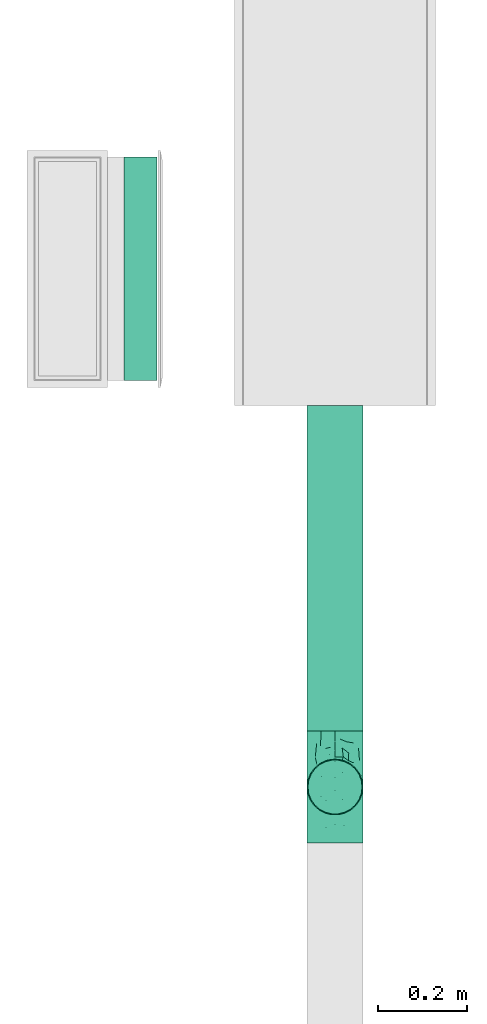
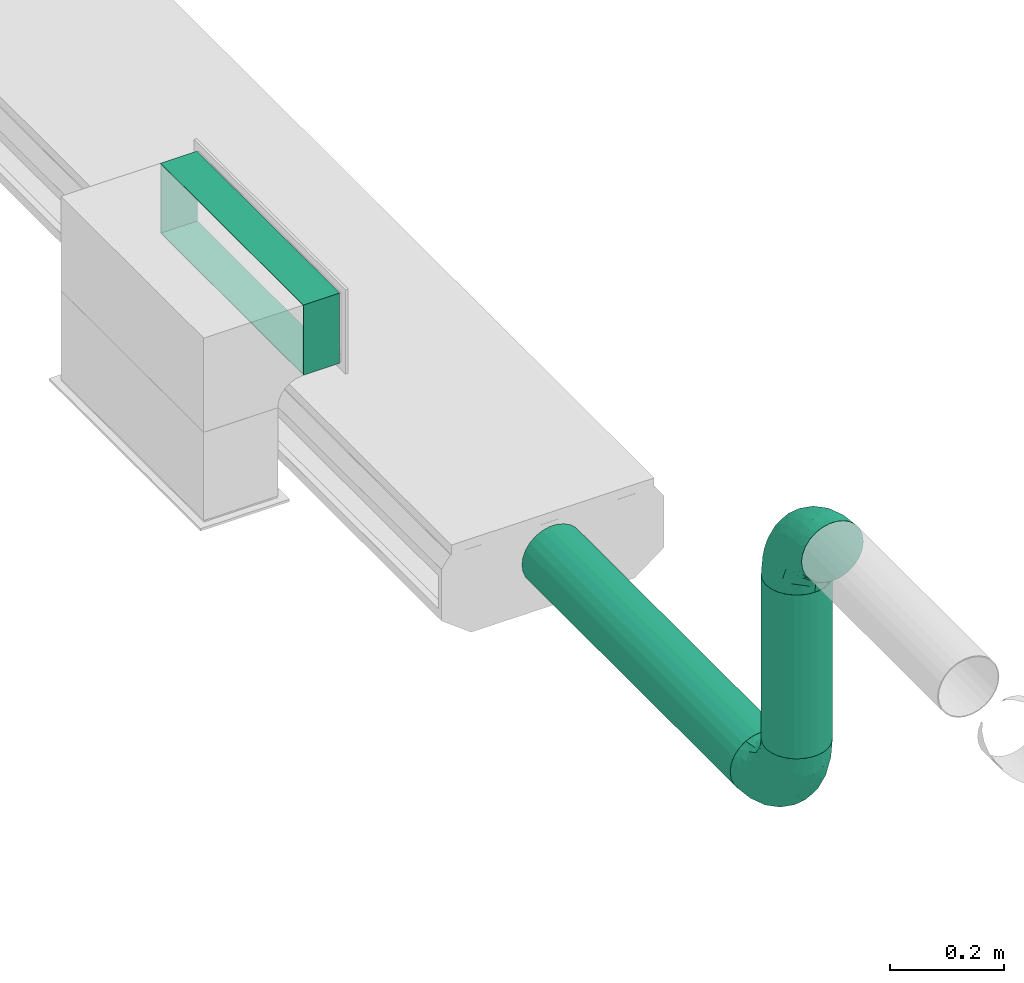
# One storey, part 29 of 36: 3 flow segments, 2 flow fittings.
"""IFC2X3 building model written with IfcOpenShell, lengths in millimetres."""

from ifc_helpers import new_model, entity, si_unit, converted_unit, derived_unit, direction, frame, origin_with_axes, origin_2d_with_axis, place, context, subcontext, project, spatial, hollow_rectangle, hollow_circle, extrude, open_shell, surface_model, source, transform, mapped, type_object, element, save


model = new_model("IFC2X3")

# Units and contexts
model_context = context("Model", 3, precision=0.01, world=frame((0.0, 4.29681676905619e-09, 0.0)), true_north=direction((4.01073788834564e-13, 1.0)))
plan_context = context("Plan", 3, precision=0.01, world=frame((0.0, 4.29681676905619e-09, 0.0)), true_north=direction((4.01073788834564e-13, 1.0)))
body_context = subcontext(model_context, "Body", "Model", "MODEL_VIEW")
ifc_project = project(units=[converted_unit("PLANEANGLEUNIT", "DEGREE", entity("IfcPositiveLengthMeasure", 0.0174532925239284), si_unit("PLANEANGLEUNIT", "RADIAN"), dimensions=[0, 0, 0, 0, 0, 0, 0]), si_unit("AREAUNIT", "SQUARE_METRE"), si_unit("LENGTHUNIT", "METRE", prefix="MILLI"), si_unit("MASSUNIT", "GRAM", prefix="KILO"), si_unit("POWERUNIT", "WATT"), si_unit("PRESSUREUNIT", "PASCAL"), si_unit("FORCEUNIT", "NEWTON", prefix="KILO"), si_unit("ELECTRICCURRENTUNIT", "AMPERE"), si_unit("THERMODYNAMICTEMPERATUREUNIT", "DEGREE_CELSIUS"), si_unit("TIMEUNIT", "SECOND"), si_unit("VOLUMEUNIT", "CUBIC_METRE"), derived_unit("LINEARVELOCITYUNIT", [(si_unit("LENGTHUNIT", "METRE"), 1), (si_unit("TIMEUNIT", "SECOND"), -1)]), derived_unit("VOLUMETRICFLOWRATEUNIT", [(si_unit("VOLUMEUNIT", "CUBIC_METRE"), 1), (si_unit("TIMEUNIT", "SECOND"), -1)]), derived_unit("THERMALTRANSMITTANCEUNIT", [(si_unit("POWERUNIT", "WATT"), 1), (si_unit("THERMODYNAMICTEMPERATUREUNIT", "KELVIN"), -1), (si_unit("AREAUNIT", "SQUARE_METRE"), -1)])], contexts=[model_context, plan_context])

# Site, building, storey
site_placement = place(None, frame((0.0, -4.29681676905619e-09, 0.0), z_axis=(0.0, 0.0, 1.0), x_axis=(1.0, 0.0, 0.0)))
site = spatial("IfcSite", under=ifc_project, at=site_placement, CompositionType="ELEMENT")
building_placement = place(site_placement, frame((0.0, 4.29681676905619e-09, 0.0), z_axis=(0.0, 0.0, 1.0), x_axis=(1.0, 0.0, 0.0)))
building = spatial("IfcBuilding", under=site, at=building_placement, Name="mc-building", CompositionType="ELEMENT")
storey_placement = place(building_placement, frame((0.0, 0.0, 204000.0), z_axis=(0.0, 0.0, 1.0), x_axis=(1.0, 0.0, 0.0)))
storey = spatial("IfcBuildingStorey", under=building, at=storey_placement, Name="Nivå D", CompositionType="ELEMENT", Elevation=204000.0)

# Flow fittings
duct_fitting_type = type_object("IfcDuctFittingType", Name="magicirc_elbow_full_radius_001", PredefinedType="BEND")
shared_shape_1 = source(origin_with_axes(), body_context, "Body", "SurfaceModel", [
    surface_model("IfcShellBasedSurfaceModel", [(-125.00008, 16.17619, -60.37037), (-125.00008, 0.0, -62.5), (-125.00008, 44.19417, -44.19417), (-125.00008, 31.25, -54.12659), (-125.00008, 60.37037, -16.17619), (-125.00008, 54.12659, -31.25), (-125.00008, -16.17619, -60.37037), (-125.00008, -31.25, -54.12659), (-125.00008, -44.19417, -44.19417), (-125.00008, -54.12659, -31.25), (-125.00008, -60.37037, -16.17619), (-125.00008, -62.5, 0.0), (-125.00008, 62.5, 0.0), (-125.00008, -31.25, 54.12659), (-125.00008, 60.37037, 16.17619), (-125.00008, 54.12659, 31.25), (-125.00008, 16.17619, 60.37037), (-125.00008, 31.25, 54.12659), (-125.00008, 44.19417, 44.19417), (-125.00008, -54.12659, 31.25), (-125.00008, -44.19417, 44.19417), (-125.00008, -60.37037, 16.17619), (-125.00008, -16.17619, 60.37037), (-125.00008, 0.0, 62.5), (-16.17627, 125.00007, -60.37037), (44.1941, 125.00011, -44.19417), (-8e-05, 125.00008, -62.5), (-44.19425, 125.00006, -44.19417), (-31.25008, 125.00006, -54.12659), (-54.12667, 125.00005, -31.25), (-60.37044, 125.00004, -16.17619), (16.17611, 125.00009, -60.37037), (31.24992, 125.0001, -54.12659), (60.37028, 125.00012, -16.17619), (54.12651, 125.00012, -31.25), (62.49992, 125.00012, 0.0), (-60.37044, 125.00004, 16.17619), (-16.17627, 125.00007, 60.37037), (-44.19425, 125.00006, 44.19417), (-54.12667, 125.00005, 31.25), (-31.25008, 125.00006, 54.12659), (-8e-05, 125.00008, 62.5), (60.37028, 125.00012, 16.17619), (44.1941, 125.00011, 44.19417), (54.12651, 125.00012, 31.25), (31.24992, 125.0001, 54.12659), (16.17611, 125.00009, 60.37037), (-62.50008, 125.00004, 0.0), (-92.01499, -48.59662, 35.11543), (-82.31108, -36.10079, 46.59002), (-83.27738, -57.79898, 0.0), (21.59337, 8.09572, 0.0), (6.68949, -6.68949, 12.50062), (-8.0957, -21.59337, 0.0), (-85.18294, -54.95352, 19.72452), (-63.86869, 108.10794, 10.69753), (-72.65271, 88.16477, 13.64848), (-58.8594, 108.47701, 26.01877), (28.68801, 50.93019, 42.73586), (15.2499, 48.30382, 51.88115), (13.33609, 22.15572, 40.76355), (-28.58039, -33.18172, 16.61251), (-55.80936, -40.00167, 31.60253), (-55.92907, -46.21073, 18.75922), (-43.64685, -43.93165, 0.0), (-11.16432, 11.16432, 51.09904), (-91.91548, -23.64007, 56.2333), (-48.30381, -15.24993, 51.88115), (-62.22465, -0.56087, 60.57833), (-86.05227, 71.09174, 22.01564), (-76.29763, 73.71529, 30.99182), (-95.48006, -8.27954, 61.43109), (-21.7217, 61.46247, 62.38786), (-46.2947, 46.29467, 60.98138), (-37.21572, 27.312, 62.17805), (-96.34428, 24.51221, 59.0402), (-23.33019, 107.80842, 58.54242), (-8.56594, 93.49125, 62.34649), (-87.52036, 9.58041, 62.39347), (-90.84336, 62.14568, 32.36992), (-104.65638, 61.64741, 22.10299), (-108.6762, 63.76169, 10.43133), (-88.81048, 72.98576, 10.36438), (36.10074, 82.31111, 46.59002), (-22.15571, -13.3361, 40.76355), (-97.70221, 52.10141, 41.01675), (33.1817, 28.58041, 16.61251), (43.93162, 43.64688, 0.0), (-108.1333, 37.84893, 50.9265), (-16.31429, 41.86092, 61.36861), (-31.05503, 11.46575, 58.3624), (-6.385, 33.76706, 57.43674), (23.64002, 91.9155, 56.2333), (8.27948, 95.48006, 61.43109), (40.00164, 55.80938, 31.60253), (47.31254, 55.33616, 14.21496), (57.79892, 83.27743, 0.0), (54.95347, 85.18296, 19.72452), (48.59656, 92.01501, 35.11543), (-51.08399, 80.06206, 49.23756), (-51.34971, 100.68879, 40.68918), (-65.8815, 69.79933, 44.27158), (-67.2576, 101.08231, 0.0), (-66.75096, 56.08362, 51.93913), (-47.27429, 67.56378, 55.69769), (-80.8059, 80.80584, 0.0), (-101.08236, 67.25753, 0.0), (-27.03015, 84.68907, 59.52251), (-39.49555, 96.79791, 51.80473), (-4.68937, 4.68937, 43.22246), (2.91364, -2.91364, 27.95972), (-68.67974, 26.77169, 61.38152), (-61.329, 15.31518, 62.47333), (-66.44481, 42.4079, 57.80884), (-86.0654, 42.42608, 52.63145), (-36.40735, 64.87814, 59.87196), (0.56083, 62.22465, 60.57833), (-50.92898, -28.66756, 42.75499), (-64.50933, 88.50412, 30.85553), (-27.43127, -26.16339, 29.83955), (22.73421, 21.43216, 28.89236), (-90.73917, 40.97988, -52.27133), (-51.05948, -15.77312, -52.43613), (-54.27153, -0.77961, -59.44482), (-25.11171, -1.04584, -51.21225), (-98.94236, 7.90272, -62.29658), (-67.16149, 94.52641, -18.73918), (-96.17127, 24.53976, -59.04752), (-57.88416, 72.64105, -48.12601), (-44.50921, 76.42377, -54.27754), (-57.76287, 57.76282, -54.87721), (-107.28054, 64.03146, -11.08737), (-59.60369, -46.85881, -20.95959), (-91.17803, -55.95169, -20.37553), (-87.70535, 72.36168, -15.72738), (37.33982, 90.42129, -47.18844), (21.56935, 79.15017, -55.58604), (24.63933, 105.55623, -56.88213), (-98.81841, 51.80612, -40.89409), (-75.37661, 57.27462, -47.13743), (-29.5623, -32.616, -19.86672), (2.6311, 29.3589, -52.12213), (-22.06404, 22.06403, -59.01679), (-105.22473, -49.75349, -36.31269), (-39.22859, 98.11976, -51.7028), (-25.51308, 90.93132, -59.26694), (7.0632, 14.54732, -41.00964), (25.49528, 46.66585, -43.72165), (20.9994, 20.90791, -30.93536), (-90.42127, -37.33987, -47.18844), (-47.4047, -35.90659, -32.07933), (-105.55621, -24.6394, -56.88213), (0.77958, 54.27153, -59.44482), (12.91752, 53.35703, -54.59988), (7.88042, 92.08259, -61.35725), (-79.15015, -21.5694, -55.58604), (-92.08258, -7.88048, -61.35725), (-78.52971, -46.34868, -33.8522), (-68.20961, -28.53783, -49.07388), (46.34863, 78.52974, -33.8522), (46.85877, 59.60372, -20.95959), (35.90656, 47.40472, -32.07933), (-75.95085, 74.3101, -30.65773), (-100.92726, 60.72326, -27.00798), (2.91554, -2.91554, -27.95435), (6.68997, -6.68997, -12.49729), (32.61598, 29.56232, -19.86672), (-54.06792, 91.48682, -41.70622), (-58.74828, 101.55882, -30.19257), (-7.90279, 98.94235, -62.29658), (49.75343, 105.22475, -36.31269), (-14.77489, 68.85353, -62.48651), (-33.79554, 36.46999, -62.46452), (-36.98166, 59.25003, -60.63975), (55.95163, 91.17806, -20.37553), (-61.70772, 36.16981, -60.43635), (-23.35088, -23.1825, -30.24251), (-68.85354, 14.77484, -62.48651), (-16.6083, -10.64431, -39.25755), (-46.66583, -25.49531, -43.72165), (-69.70069, 70.7847, -40.55271)], [open_shell([[[0, 1, 2]], [[3, 0, 2]], [[4, 5, 2]], [[6, 2, 1]], [[4, 2, 6]], [[7, 8, 6]], [[8, 4, 6]], [[9, 10, 8]], [[11, 8, 10]], [[8, 11, 4]], [[11, 12, 4]], [[12, 13, 14]], [[15, 14, 16]], [[16, 17, 18]], [[15, 16, 18]], [[16, 14, 13]], [[19, 20, 21]], [[21, 20, 11]], [[22, 23, 13]], [[20, 13, 11]], [[13, 23, 16]], [[13, 12, 11]], [[24, 25, 26]], [[27, 24, 28]], [[27, 29, 30]], [[27, 30, 24]], [[25, 24, 30]], [[31, 25, 32]], [[31, 26, 25]], [[25, 33, 34]], [[33, 25, 35]], [[25, 36, 35]], [[25, 30, 36]], [[35, 36, 37]], [[38, 36, 39]], [[40, 37, 36]], [[40, 36, 38]], [[35, 37, 41]], [[42, 43, 44]], [[43, 42, 45]], [[45, 41, 46]], [[41, 45, 42]], [[35, 41, 42]], [[30, 47, 36]], [[20, 48, 49]], [[21, 11, 50]], [[51, 52, 53]], [[54, 19, 21]], [[50, 54, 21]], [[55, 56, 57]], [[19, 48, 20]], [[58, 59, 60]], [[61, 62, 63]], [[61, 63, 64]], [[20, 49, 13]], [[61, 64, 53]], [[65, 60, 59]], [[66, 67, 68]], [[56, 69, 70]], [[71, 23, 22]], [[72, 73, 74]], [[17, 16, 75]], [[66, 13, 49]], [[37, 76, 77]], [[23, 78, 16]], [[15, 79, 80]], [[81, 12, 14]], [[69, 82, 81]], [[83, 43, 45]], [[65, 67, 84]], [[18, 85, 15]], [[86, 51, 87]], [[18, 17, 88]], [[89, 90, 91]], [[83, 45, 92]], [[69, 81, 80]], [[93, 46, 41]], [[94, 86, 95]], [[96, 97, 95]], [[96, 42, 97]], [[98, 97, 44]], [[41, 37, 77]], [[63, 50, 64]], [[42, 44, 97]], [[83, 94, 98]], [[44, 43, 98]], [[99, 100, 101]], [[55, 102, 56]], [[36, 57, 39]], [[42, 96, 35]], [[48, 54, 62]], [[79, 70, 69]], [[99, 103, 104]], [[47, 102, 55]], [[23, 71, 78]], [[56, 105, 82]], [[18, 88, 85]], [[102, 105, 56]], [[92, 45, 46]], [[57, 100, 39]], [[82, 105, 106]], [[107, 108, 104]], [[109, 110, 60]], [[107, 72, 77]], [[13, 66, 22]], [[108, 107, 76]], [[76, 37, 40]], [[40, 38, 108]], [[83, 92, 59]], [[95, 86, 87]], [[111, 112, 74]], [[75, 16, 78]], [[113, 75, 111]], [[103, 85, 114]], [[80, 79, 69]], [[100, 38, 39]], [[107, 104, 115]], [[107, 115, 72]], [[93, 77, 116]], [[67, 66, 49]], [[71, 66, 68]], [[67, 117, 84]], [[67, 65, 90]], [[93, 92, 46]], [[116, 91, 59]], [[116, 59, 92]], [[109, 60, 65]], [[54, 48, 19]], [[49, 48, 62]], [[83, 98, 43]], [[97, 98, 94]], [[111, 75, 78]], [[88, 75, 114]], [[81, 82, 106]], [[56, 82, 69]], [[12, 81, 106]], [[81, 14, 80]], [[14, 15, 80]], [[79, 15, 85]], [[85, 101, 79]], [[70, 101, 118]], [[108, 99, 104]], [[113, 103, 114]], [[111, 74, 73]], [[116, 77, 72]], [[90, 74, 68]], [[72, 74, 89]], [[77, 93, 41]], [[92, 93, 116]], [[66, 71, 22]], [[78, 71, 68]], [[101, 100, 118]], [[108, 38, 100]], [[52, 61, 53]], [[119, 110, 84]], [[94, 58, 120]], [[86, 120, 52]], [[117, 67, 49]], [[61, 119, 62]], [[120, 60, 110]], [[83, 58, 94]], [[111, 78, 112]], [[113, 111, 73]], [[104, 113, 73]], [[75, 113, 114]], [[104, 103, 113]], [[85, 103, 101]], [[78, 68, 112]], [[68, 74, 112]], [[101, 70, 79]], [[56, 70, 118]], [[67, 90, 68]], [[91, 90, 65]], [[59, 91, 65]], [[89, 91, 116]], [[72, 89, 116]], [[90, 89, 74]], [[57, 56, 118]], [[47, 55, 36]], [[86, 52, 51]], [[61, 52, 110]], [[75, 88, 17]], [[85, 88, 114]], [[108, 76, 40]], [[77, 76, 107]], [[55, 57, 36]], [[100, 57, 118]], [[104, 73, 115]], [[72, 115, 73]], [[100, 99, 108]], [[103, 99, 101]], [[62, 54, 63]], [[63, 54, 50]], [[96, 95, 87]], [[94, 95, 97]], [[49, 62, 117]], [[119, 117, 62]], [[110, 119, 61]], [[117, 119, 84]], [[65, 84, 109]], [[110, 109, 84]], [[52, 120, 110]], [[94, 120, 86]], [[59, 58, 83]], [[120, 58, 60]], [[2, 121, 3]], [[122, 123, 124]], [[1, 0, 125]], [[126, 102, 47]], [[3, 127, 0]], [[128, 129, 130]], [[106, 131, 12]], [[132, 50, 133]], [[106, 134, 131]], [[135, 136, 137]], [[138, 139, 121]], [[64, 140, 53]], [[141, 124, 142]], [[121, 2, 138]], [[133, 9, 143]], [[144, 28, 145]], [[50, 11, 10]], [[146, 147, 148]], [[149, 8, 7]], [[140, 132, 150]], [[151, 149, 7]], [[141, 152, 153]], [[31, 154, 26]], [[133, 10, 9]], [[143, 9, 8]], [[155, 156, 123]], [[157, 149, 158]], [[7, 6, 151]], [[156, 6, 1]], [[159, 160, 161]], [[105, 134, 106]], [[64, 50, 132]], [[126, 162, 134]], [[138, 163, 162]], [[30, 126, 47]], [[140, 164, 165]], [[166, 87, 51]], [[167, 168, 29]], [[162, 126, 168]], [[32, 25, 135]], [[154, 31, 137]], [[24, 169, 145]], [[127, 3, 121]], [[169, 24, 26]], [[25, 34, 170]], [[28, 144, 27]], [[24, 145, 28]], [[31, 32, 137]], [[87, 166, 160]], [[165, 166, 51]], [[171, 172, 173]], [[142, 152, 141]], [[165, 51, 53]], [[156, 155, 151]], [[136, 135, 147]], [[34, 33, 174]], [[35, 96, 33]], [[175, 127, 121]], [[2, 5, 138]], [[174, 159, 170]], [[176, 140, 150]], [[171, 154, 152]], [[126, 105, 102]], [[29, 27, 167]], [[173, 145, 171]], [[131, 163, 4]], [[128, 144, 129]], [[139, 128, 130]], [[174, 160, 159]], [[170, 135, 25]], [[147, 135, 159]], [[152, 154, 136]], [[169, 154, 171]], [[153, 147, 141]], [[152, 142, 172]], [[33, 96, 174]], [[160, 96, 87]], [[155, 122, 158]], [[143, 149, 157]], [[125, 156, 1]], [[177, 172, 123]], [[177, 123, 156]], [[123, 142, 124]], [[133, 157, 132]], [[50, 10, 133]], [[126, 134, 105]], [[168, 30, 29]], [[163, 5, 4]], [[121, 139, 130]], [[175, 121, 130]], [[125, 127, 177]], [[145, 173, 129]], [[167, 27, 144]], [[147, 146, 141]], [[178, 124, 146]], [[124, 141, 146]], [[124, 179, 122]], [[162, 163, 134]], [[138, 5, 163]], [[127, 125, 0]], [[156, 125, 177]], [[154, 169, 26]], [[145, 169, 171]], [[147, 161, 148]], [[146, 164, 178]], [[176, 164, 140]], [[124, 178, 179]], [[171, 152, 172]], [[175, 130, 173]], [[123, 172, 142]], [[175, 172, 177]], [[172, 175, 173]], [[127, 175, 177]], [[162, 180, 138]], [[180, 167, 128]], [[160, 174, 96]], [[161, 160, 166]], [[161, 166, 148]], [[147, 159, 161]], [[166, 164, 148]], [[164, 146, 148]], [[150, 132, 157]], [[64, 132, 140]], [[157, 179, 150]], [[176, 179, 178]], [[180, 128, 139]], [[144, 128, 167]], [[145, 129, 144]], [[173, 130, 129]], [[138, 180, 139]], [[167, 180, 162]], [[179, 176, 150]], [[164, 176, 178]], [[140, 165, 53]], [[166, 165, 164]], [[163, 131, 134]], [[12, 131, 4]], [[135, 137, 32]], [[154, 137, 136]], [[174, 170, 34]], [[135, 170, 159]], [[156, 151, 6]], [[149, 151, 155]], [[149, 143, 8]], [[133, 143, 157]], [[162, 168, 167]], [[30, 168, 126]], [[152, 136, 153]], [[147, 153, 136]], [[158, 122, 179]], [[123, 122, 155]], [[157, 158, 179]], [[155, 158, 149]]])]),
])
flow_fitting_1_placement = place(storey_placement, frame((529045.00387, 417759.63634, 2599.99994000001), z_axis=(-1.0, 0.0, 0.0), x_axis=(0.0, -1.0, 0.0)))
element("IfcFlowFitting", 1, at=flow_fitting_1_placement, inside=storey, type_object=duct_fitting_type, Name="magicirc_elbow_full_radius_001", context=body_context, shape_type="MappedRepresentation", body=[
    mapped(shared_shape_1, transform((0.0, 0.0, 0.0), scale=1.0)),
])
shared_shape_2 = source(origin_with_axes(), body_context, "Body", "SurfaceModel", [
    surface_model("IfcShellBasedSurfaceModel", [(-125.0, 31.25, -54.12659), (-125.0, 16.17619, -60.37037), (-125.0, 44.19417, -44.19417), (-125.0, 60.37037, -16.17619), (-125.0, 54.12659, -31.25), (-125.0, -31.25, -54.12659), (-125.0, -44.19417, -44.19417), (-125.0, -16.17619, -60.37037), (-125.0, -54.12659, -31.25), (-125.0, -60.37037, -16.17619), (-125.0, -62.5, 0.0), (-125.0, -54.12659, 31.25), (-125.0, -44.19417, 44.19417), (-125.0, -60.37037, 16.17619), (-125.0, -16.17619, 60.37037), (-125.0, 0.0, 62.5), (-125.0, -31.25, 54.12659), (-125.0, 16.17619, 60.37037), (-44.19417, 125.0, -44.19417), (-16.17619, 125.0, -60.37037), (-31.25, 125.0, -54.12659), (-54.12659, 125.0, -31.25), (-60.37037, 125.0, -16.17619), (16.17619, 125.0, -60.37037), (44.19417, 125.0, -44.19417), (31.25, 125.0, -54.12659), (60.37037, 125.0, -16.17619), (54.12659, 125.0, -31.25), (62.5, 125.0, 0.0), (-44.19417, 125.0, 44.19417), (-31.25, 125.0, 54.12659), (-16.17619, 125.0, 60.37037), (60.37037, 125.0, 16.17619), (44.19417, 125.0, 44.19417), (54.12659, 125.0, 31.25), (31.25, 125.0, 54.12659), (0.0, 125.0, 62.5), (16.17619, 125.0, 60.37037), (-92.0149, -48.59662, 35.11543), (-82.31101, -36.10079, 46.59002), (-83.27732, -57.79898, 0.0), (21.5934, 8.09566, 0.0), (6.68953, -6.68953, 12.50062), (-8.09566, -21.5934, 0.0), (-85.18285, -54.95352, 19.72452), (-63.86862, 108.10791, 10.69753), (-72.65264, 88.16475, 13.64847), (-58.85933, 108.47697, 26.01876), (28.68805, 50.93011, 42.73586), (15.24994, 48.30376, 51.88115), (13.33611, 22.15566, 40.76355), (-28.58034, -33.18174, 16.61251), (-55.80927, -40.00167, 31.60254), (-55.92901, -46.21073, 18.75923), (-43.6468, -43.93166, 0.0), (-11.16429, 11.16428, 51.09905), (-91.91541, -23.64007, 56.2333), (-48.30376, -15.24994, 51.88115), (-62.2246, -0.56088, 60.57833), (-86.05221, 71.09173, 22.01563), (-76.29757, 73.71528, 30.99181), (-95.48, -8.27954, 61.43109), (-21.72166, 61.46244, 62.38786), (-46.29465, 46.29465, 60.98138), (-37.21568, 27.31198, 62.17805), (-125.0, 31.25, 54.12659), (-96.3442, 24.51222, 59.0402), (-23.33012, 107.80836, 58.54242), (-8.56588, 93.49118, 62.34649), (-87.52028, 9.58041, 62.39347), (-125.0, 54.12659, 31.25), (-90.8433, 62.14568, 32.36992), (-104.65631, 61.64741, 22.10298), (-108.67612, 63.76169, 10.43133), (-125.0, 62.5, 0.0), (-125.0, 60.37037, 16.17619), (-88.81041, 72.98575, 10.36437), (36.10079, 82.31101, 46.59002), (-22.15566, -13.33612, 40.76355), (-125.0, 44.19417, 44.19417), (-97.70214, 52.10141, 41.01675), (33.18174, 28.58034, 16.61251), (43.93166, 43.6468, 0.0), (-108.13323, 37.84893, 50.9265), (-16.31425, 41.86087, 61.36861), (-31.05498, 11.46575, 58.36241), (-6.38494, 33.76703, 57.43674), (23.64007, 91.91541, 56.2333), (8.27954, 95.48, 61.43109), (40.00167, 55.80927, 31.60254), (47.31258, 55.33607, 14.21495), (57.79898, 83.27732, 0.0), (54.95352, 85.18285, 19.72452), (48.59662, 92.0149, 35.11543), (-51.08394, 80.06201, 49.23756), (-51.34965, 100.68876, 40.68918), (-65.88145, 69.79931, 44.27158), (-67.25753, 101.08228, 0.0), (-60.37037, 125.0, 16.17619), (-54.12659, 125.0, 31.25), (-66.7509, 56.0836, 51.93913), (-47.27423, 67.56375, 55.69769), (-62.5, 125.0, 0.0), (-80.80582, 80.80582, 0.0), (-101.08228, 67.25753, 0.0), (-27.0301, 84.68903, 59.52251), (-39.49549, 96.79785, 51.80473), (-4.68934, 4.68934, 43.22247), (2.91368, -2.91368, 27.95973), (-68.67967, 26.77168, 61.38152), (-61.32894, 15.31518, 62.47333), (-66.44476, 42.40788, 57.80884), (-86.06534, 42.42608, 52.63144), (-36.4073, 64.87811, 59.87196), (0.56088, 62.2246, 60.57833), (-50.92891, -28.66756, 42.755), (-64.50927, 88.5041, 30.85553), (-27.43118, -26.16339, 29.83954), (22.73426, 21.43212, 28.89237), (-90.73911, 40.97988, -52.27133), (-51.05944, -15.77315, -52.43613), (-54.27147, -0.77962, -59.44482), (-25.11169, -1.04586, -51.21226), (-125.0, 0.0, -62.5), (-98.94229, 7.90272, -62.29658), (-67.16143, 94.52638, -18.73917), (-96.1712, 24.53976, -59.04752), (-57.8841, 72.64103, -48.12601), (-44.50916, 76.42373, -54.27754), (-57.76281, 57.76281, -54.8772), (-107.28047, 64.03146, -11.08737), (-59.60363, -46.85882, -20.9596), (-91.17795, -55.95169, -20.37554), (-87.70528, 72.36167, -15.72738), (37.33987, 90.42119, -47.18844), (21.5694, 79.15007, -55.58604), (24.6394, 105.55614, -56.88213), (-98.81833, 51.80612, -40.89409), (-75.37655, 57.2746, -47.13743), (-29.56225, -32.61603, -19.86672), (2.63114, 29.35884, -52.12213), (-22.06401, 22.064, -59.01679), (-105.22465, -49.75349, -36.31269), (-39.22852, 98.11971, -51.7028), (-25.51302, 90.93127, -59.26694), (7.06321, 14.54725, -41.00964), (25.49531, 46.66577, -43.72165), (20.99941, 20.9078, -30.93535), (-90.42119, -37.33987, -47.18844), (-47.40462, -35.90659, -32.07933), (-105.55614, -24.6394, -56.88213), (0.77962, 54.27147, -59.44482), (12.91756, 53.35696, -54.59988), (7.88048, 92.08251, -61.35725), (0.0, 125.0, -62.5), (-79.15007, -21.5694, -55.58604), (-92.08251, -7.88048, -61.35725), (-78.52964, -46.34869, -33.8522), (-68.20954, -28.53784, -49.07387), (46.34869, 78.52964, -33.8522), (46.85882, 59.60363, -20.9596), (35.90659, 47.40462, -32.07933), (-75.95077, 74.3101, -30.65772), (-100.92719, 60.72326, -27.00798), (2.91558, -2.91558, -27.95435), (6.69001, -6.69001, -12.49729), (32.61603, 29.56225, -19.86672), (-54.06785, 91.48679, -41.70621), (-58.74822, 101.55878, -30.19257), (-7.90272, 98.94229, -62.29658), (49.75349, 105.22465, -36.31269), (-14.77484, 68.85348, -62.48651), (-33.7955, 36.46996, -62.46452), (-36.98162, 59.24998, -60.63975), (55.95169, 91.17795, -20.37554), (-61.70769, 36.16979, -60.43635), (-23.35082, -23.18253, -30.24249), (-68.85348, 14.77484, -62.48651), (-16.60827, -10.64436, -39.25753), (-46.66577, -25.49531, -43.72165), (-69.70063, 70.78468, -40.55271)], [open_shell([[[0, 1, 2]], [[3, 4, 2]], [[5, 6, 7]], [[8, 9, 6]], [[10, 6, 9]], [[11, 12, 13]], [[13, 12, 10]], [[14, 15, 16]], [[16, 15, 17]], [[18, 19, 20]], [[18, 21, 22]], [[23, 24, 25]], [[24, 26, 27]], [[26, 24, 28]], [[29, 30, 31]], [[32, 33, 34]], [[35, 36, 37]], [[12, 38, 39]], [[13, 10, 40]], [[41, 42, 43]], [[44, 11, 13]], [[40, 44, 13]], [[45, 46, 47]], [[11, 38, 12]], [[48, 49, 50]], [[51, 52, 53]], [[51, 53, 54]], [[12, 39, 16]], [[51, 54, 43]], [[55, 50, 49]], [[56, 57, 58]], [[46, 59, 60]], [[61, 15, 14]], [[62, 63, 64]], [[65, 17, 66]], [[56, 16, 39]], [[31, 67, 68]], [[15, 69, 17]], [[70, 71, 72]], [[73, 74, 75]], [[59, 76, 73]], [[77, 33, 35]], [[55, 57, 78]], [[79, 80, 70]], [[81, 41, 82]], [[79, 65, 83]], [[84, 85, 86]], [[77, 35, 87]], [[59, 73, 72]], [[88, 37, 36]], [[89, 81, 90]], [[91, 92, 90]], [[91, 32, 92]], [[93, 92, 34]], [[36, 31, 68]], [[53, 40, 54]], [[32, 34, 92]], [[77, 89, 93]], [[34, 33, 93]], [[94, 95, 96]], [[45, 97, 46]], [[98, 47, 99]], [[32, 91, 28]], [[38, 44, 52]], [[71, 60, 59]], [[94, 100, 101]], [[102, 97, 45]], [[15, 61, 69]], [[46, 103, 76]], [[79, 83, 80]], [[97, 103, 46]], [[87, 35, 37]], [[47, 95, 99]], [[76, 103, 104]], [[105, 106, 101]], [[107, 108, 50]], [[105, 62, 68]], [[16, 56, 14]], [[106, 105, 67]], [[67, 31, 30]], [[30, 29, 106]], [[77, 87, 49]], [[90, 81, 82]], [[109, 110, 64]], [[66, 17, 69]], [[111, 66, 109]], [[100, 80, 112]], [[72, 71, 59]], [[95, 29, 99]], [[113, 101, 63]], [[105, 113, 62]], [[88, 68, 114]], [[57, 56, 39]], [[61, 56, 58]], [[57, 115, 78]], [[57, 55, 85]], [[88, 87, 37]], [[114, 86, 49]], [[114, 49, 87]], [[107, 50, 55]], [[44, 38, 11]], [[39, 38, 52]], [[77, 93, 33]], [[92, 93, 89]], [[109, 66, 69]], [[83, 66, 112]], [[73, 76, 104]], [[46, 76, 59]], [[74, 73, 104]], [[73, 75, 72]], [[75, 70, 72]], [[71, 70, 80]], [[80, 96, 71]], [[60, 96, 116]], [[106, 94, 101]], [[111, 100, 112]], [[109, 64, 63]], [[114, 68, 62]], [[85, 64, 58]], [[62, 64, 84]], [[68, 88, 36]], [[87, 88, 114]], [[56, 61, 14]], [[69, 61, 58]], [[96, 95, 116]], [[106, 29, 95]], [[42, 51, 43]], [[117, 108, 78]], [[89, 48, 118]], [[81, 118, 42]], [[115, 57, 39]], [[51, 117, 52]], [[118, 50, 108]], [[77, 48, 89]], [[109, 69, 110]], [[111, 109, 63]], [[101, 111, 63]], [[66, 111, 112]], [[101, 100, 111]], [[80, 100, 96]], [[69, 58, 110]], [[58, 64, 110]], [[96, 60, 71]], [[46, 60, 116]], [[57, 85, 58]], [[86, 85, 55]], [[49, 86, 55]], [[84, 86, 114]], [[62, 84, 114]], [[85, 84, 64]], [[47, 46, 116]], [[102, 45, 98]], [[81, 42, 41]], [[51, 42, 108]], [[66, 83, 65]], [[80, 83, 112]], [[106, 67, 30]], [[68, 67, 105]], [[45, 47, 98]], [[95, 47, 116]], [[62, 113, 63]], [[105, 101, 113]], [[95, 94, 106]], [[100, 94, 96]], [[52, 44, 53]], [[53, 44, 40]], [[91, 90, 82]], [[89, 90, 92]], [[39, 52, 115]], [[117, 115, 52]], [[108, 117, 51]], [[115, 117, 78]], [[55, 78, 107]], [[108, 107, 78]], [[42, 118, 108]], [[89, 118, 81]], [[49, 48, 77]], [[118, 48, 50]], [[2, 119, 0]], [[120, 121, 122]], [[123, 1, 124]], [[125, 97, 102]], [[0, 126, 1]], [[127, 128, 129]], [[104, 130, 74]], [[131, 40, 132]], [[104, 133, 130]], [[134, 135, 136]], [[137, 138, 119]], [[54, 139, 43]], [[140, 122, 141]], [[119, 2, 137]], [[132, 8, 142]], [[143, 20, 144]], [[40, 10, 9]], [[145, 146, 147]], [[148, 6, 5]], [[139, 131, 149]], [[150, 148, 5]], [[140, 151, 152]], [[23, 153, 154]], [[132, 9, 8]], [[142, 8, 6]], [[155, 156, 121]], [[157, 148, 158]], [[5, 7, 150]], [[156, 7, 123]], [[159, 160, 161]], [[103, 133, 104]], [[54, 40, 131]], [[125, 162, 133]], [[137, 163, 162]], [[22, 125, 102]], [[139, 164, 165]], [[166, 82, 41]], [[167, 168, 21]], [[162, 125, 168]], [[25, 24, 134]], [[153, 23, 136]], [[19, 169, 144]], [[126, 0, 119]], [[169, 19, 154]], [[24, 27, 170]], [[20, 143, 18]], [[19, 144, 20]], [[23, 25, 136]], [[82, 166, 160]], [[165, 166, 41]], [[171, 172, 173]], [[141, 151, 140]], [[165, 41, 43]], [[156, 155, 150]], [[135, 134, 146]], [[27, 26, 174]], [[28, 91, 26]], [[175, 126, 119]], [[2, 4, 137]], [[174, 159, 170]], [[176, 139, 149]], [[171, 153, 151]], [[125, 103, 97]], [[21, 18, 167]], [[173, 144, 171]], [[130, 163, 3]], [[127, 143, 128]], [[138, 127, 129]], [[174, 160, 159]], [[170, 134, 24]], [[146, 134, 159]], [[151, 153, 135]], [[169, 153, 171]], [[152, 146, 140]], [[151, 141, 172]], [[26, 91, 174]], [[160, 91, 82]], [[155, 120, 158]], [[142, 148, 157]], [[124, 156, 123]], [[177, 172, 121]], [[177, 121, 156]], [[121, 141, 122]], [[132, 157, 131]], [[40, 9, 132]], [[125, 133, 103]], [[168, 22, 21]], [[163, 4, 3]], [[119, 138, 129]], [[175, 119, 129]], [[124, 126, 177]], [[144, 173, 128]], [[167, 18, 143]], [[146, 145, 140]], [[178, 122, 145]], [[122, 140, 145]], [[122, 179, 120]], [[162, 163, 133]], [[137, 4, 163]], [[126, 124, 1]], [[156, 124, 177]], [[153, 169, 154]], [[144, 169, 171]], [[146, 161, 147]], [[145, 164, 178]], [[176, 164, 139]], [[122, 178, 179]], [[171, 151, 172]], [[175, 129, 173]], [[121, 172, 141]], [[175, 172, 177]], [[172, 175, 173]], [[126, 175, 177]], [[162, 180, 137]], [[180, 167, 127]], [[160, 174, 91]], [[161, 160, 166]], [[161, 166, 147]], [[146, 159, 161]], [[166, 164, 147]], [[164, 145, 147]], [[149, 131, 157]], [[54, 131, 139]], [[157, 179, 149]], [[176, 179, 178]], [[180, 127, 138]], [[143, 127, 167]], [[144, 128, 143]], [[173, 129, 128]], [[137, 180, 138]], [[167, 180, 162]], [[179, 176, 149]], [[164, 176, 178]], [[139, 165, 43]], [[166, 165, 164]], [[163, 130, 133]], [[74, 130, 3]], [[134, 136, 25]], [[153, 136, 135]], [[174, 170, 27]], [[134, 170, 159]], [[156, 150, 7]], [[148, 150, 155]], [[148, 142, 6]], [[132, 142, 157]], [[162, 168, 167]], [[22, 168, 125]], [[151, 135, 152]], [[146, 152, 135]], [[158, 120, 179]], [[121, 120, 155]], [[157, 158, 179]], [[155, 158, 148]], [[123, 6, 1]], [[6, 2, 1]], [[2, 6, 3]], [[6, 123, 7]], [[10, 12, 6]], [[75, 3, 6]], [[6, 16, 75]], [[75, 16, 70]], [[65, 70, 16]], [[79, 70, 65]], [[65, 16, 17]], [[12, 16, 6]], [[74, 3, 75]], [[19, 24, 154]], [[23, 154, 24]], [[22, 102, 98]], [[24, 19, 18]], [[33, 24, 18]], [[33, 18, 22]], [[24, 32, 28]], [[33, 22, 98]], [[29, 98, 99]], [[98, 29, 33]], [[31, 33, 29]], [[24, 33, 32]], [[36, 35, 33]], [[31, 36, 33]]])]),
])
flow_fitting_2_placement = place(storey_placement, frame((529045.00387, 417759.63634, 3199.99994000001), z_axis=(1.0, 0.0, 0.0), x_axis=(0.0, 0.0, 1.0)))
element("IfcFlowFitting", 2, at=flow_fitting_2_placement, inside=storey, type_object=duct_fitting_type, Name="magicirc_elbow_full_radius_001", context=body_context, shape_type="MappedRepresentation", body=[
    mapped(shared_shape_2, transform((0.0, 0.0, 0.0), scale=1.0)),
])

# Flow segments
duct_segment_type_1 = type_object("IfcDuctSegmentType", Name="KK001T - Spiro kanaler, Forsinket stål", PredefinedType="RIGIDSEGMENT")
shared_shape_3 = source(origin_with_axes(), body_context, "Body", "SweptSolid", [
    extrude(hollow_circle(Radius=62.5, WallThickness=2.0, at=origin_2d_with_axis()), frame((0.0, 0.0, 0.0), z_axis=(1.0, 0.0, 0.0), x_axis=(0.0, 1.0, 0.0)), (0.0, 0.0, 1.0), 729.2),
])
flow_segment_1_placement = place(storey_placement, frame((529045.00387, 418613.82336, 2600.00026999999), z_axis=(0.0, 0.0, 1.0), x_axis=(0.0, -1.0, 0.0)))
element("IfcFlowSegment", 3, at=flow_segment_1_placement, inside=storey, type_object=duct_segment_type_1, Name="KK001T - Spiro kanaler, Forsinket stål", context=body_context, shape_type="MappedRepresentation", body=[
    mapped(shared_shape_3, transform((0.0, 0.0, 0.0), scale=1.0)),
])
shared_shape_4 = source(origin_with_axes(), body_context, "Body", "SweptSolid", [
    extrude(hollow_circle(Radius=62.5, WallThickness=2.0, at=origin_2d_with_axis()), frame((0.0, 0.0, 0.0), z_axis=(1.0, 0.0, 0.0), x_axis=(0.0, 1.0, 0.0)), (0.0, 0.0, 1.0), 350.0),
])
flow_segment_2_placement = place(storey_placement, frame((529045.00387, 417759.63634, 2725.00002000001), z_axis=(0.0, -1.0, 0.0), x_axis=(0.0, 0.0, 1.0)))
element("IfcFlowSegment", 4, at=flow_segment_2_placement, inside=storey, type_object=duct_segment_type_1, Name="KK001T - Spiro kanaler, Forsinket stål", context=body_context, shape_type="MappedRepresentation", body=[
    mapped(shared_shape_4, transform((0.0, 0.0, 0.0), scale=1.0)),
])
duct_segment_type_2 = type_object("IfcDuctSegmentType", Name="KK002T - Rektangulære, Forsinket stål", PredefinedType="RIGIDSEGMENT")
shared_shape_5 = source(origin_with_axes(), body_context, "Body", "SweptSolid", [
    extrude(hollow_rectangle(XDim=500.0, YDim=150.0, WallThickness=2.0, at=origin_2d_with_axis()), frame((0.0, 0.0, 0.0), z_axis=(1.0, 0.0, 0.0), x_axis=(0.0, 1.0, 0.0)), (0.0, 0.0, 1.0), 73.5),
])
flow_segment_3_placement = place(storey_placement, frame((528572.68595, 418919.06689, 3190.0), z_axis=(0.0, 0.0, 1.0), x_axis=(1.0, 0.0, 0.0)))
element("IfcFlowSegment", 5, at=flow_segment_3_placement, inside=storey, type_object=duct_segment_type_2, Name="KK002T - Rektangulære, Forsinket stål", context=body_context, shape_type="MappedRepresentation", body=[
    mapped(shared_shape_5, transform((0.0, 0.0, 0.0), scale=1.0)),
])

save(model, "model.ifc")
